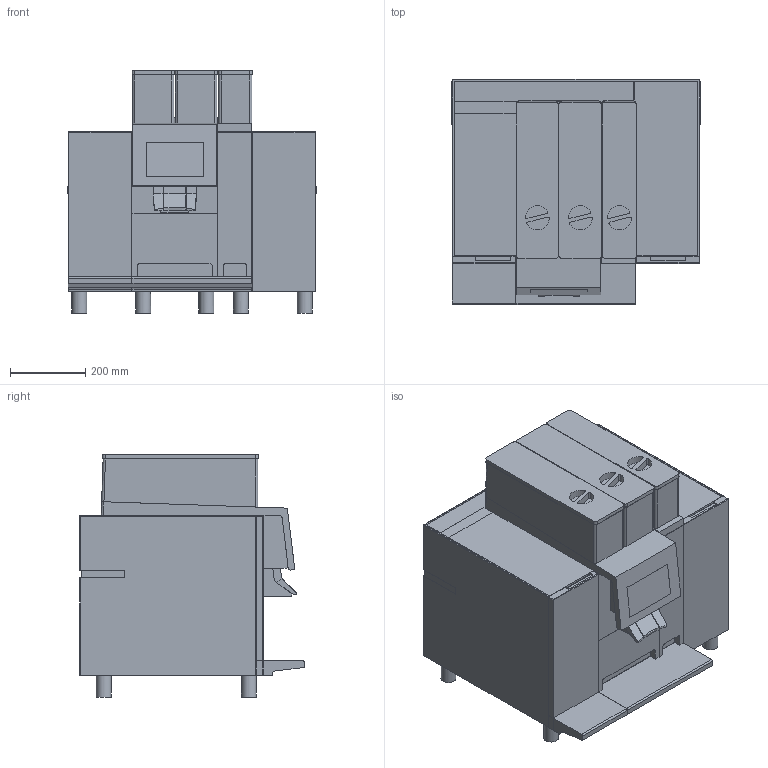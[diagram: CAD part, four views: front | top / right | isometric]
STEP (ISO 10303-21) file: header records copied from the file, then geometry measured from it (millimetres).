
FILE_DESCRIPTION(/* description */ ('Unknown'),/* implementation_level */ '2;1');
FILE_NAME(/* name */ 'HM_BW4c-CTM-P-F-RS',/* time_stamp */ '2026-08-14T14:27:51+02:00',/* author */ ('Unknown'),/* organization */ ('Unknown'),/* preprocessor_version */ 'ST-DEVELOPER v20',/* originating_system */ 'Solid Edge',/* authorisation */ 'Unknown');
FILE_SCHEMA (('AUTOMOTIVE_DESIGN {1 0 10303 214 3 1 1}'));
Length unit declared in the file: millimetre
Products named in the file (1): HM_BW4c-CTM-P-F-RS
Bounding box: 661.3 x 599.39 x 645.98 mm (x, y, z)
Volume: 162883263.9 mm3; surface area: 2544917.2 mm2
Topology: 1 solids, 1 shells, 356 faces, 967 edges, 625 vertices
Faces by surface type: plane 254, cylinder 98, sphere 4
Full cylindrical faces by diameter (mm): 40 x10
Entity records: 13585 total; most frequent: CARTESIAN_POINT 1927, ORIENTED_EDGE 1898, DIRECTION 1874, EDGE_CURVE 949, LINE 738, VECTOR 738, VERTEX_POINT 621, AXIS2_PLACEMENT_3D 568
